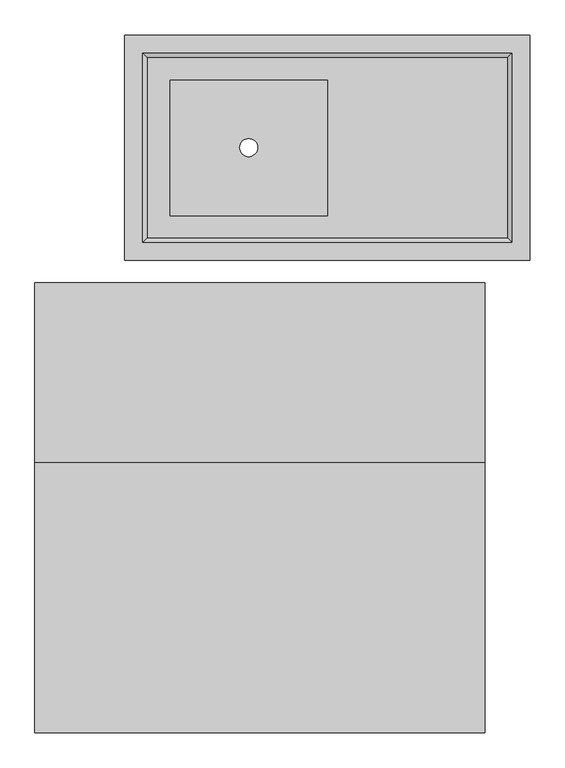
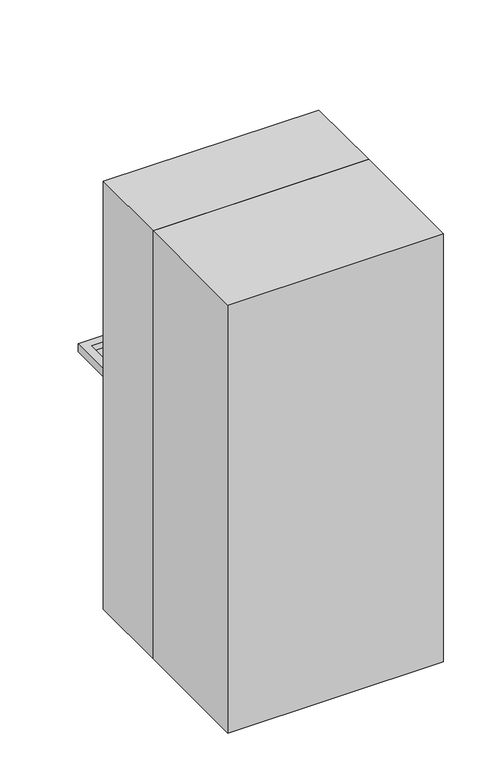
"""IFC4 building model written with IfcOpenShell, lengths in millimetres: flow terminal geometry, BIMHealth-Stainless_Steel_Sink_500x900mm-LOD2A-v1 : BIMHealth-Stainless_Steel_Sink_500x900mm-LOD2A-v1."""

from ifc_helpers import new_model, si_unit, frame, origin, origin_with_axes, place, context, project, spatial, polyline, circle_curve, outline, extrude, source, transform, mapped, element, save
from ifc_brep_helpers import plane_surface, revolved_surface, advanced_brep


def flow_terminal_1070fcb0(model_context):
    return source(origin(), model_context, "Body", "SolidModel", [
        advanced_brep(
        [(900.0, 0.0, 900.0), (0.0, 0.0, 900.0), (0.0, -500.0, 900.0), (900.0, -500.0, 900.0), (40.0, -40.0, 900.0), (860.0, -40.0, 900.0), (860.0, -460.0, 900.0), (40.0, -460.0, 900.0), (900.0, 0.0, 860.0), (900.0, -500.0, 860.0), (0.0, -500.0, 860.0), (0.0, 0.0, 860.0), (455.0, -95.0, 860.0), (95.0, -95.0, 860.0), (95.0, -406.5192247, 860.0), (455.0, -406.5192247, 860.0), (850.0, -50.0, 880.0), (50.0, -50.0, 880.0), (50.0, -450.0, 880.0), (850.0, -450.0, 880.0), (450.0, -100.0, 880.0), (450.0, -401.5192247, 880.0), (100.0, -401.5192247, 880.0), (100.0, -100.0, 880.0), (450.0, -100.0, 855.0), (450.0, -401.5192247, 855.0), (100.0, -401.5192247, 855.0), (100.0, -100.0, 855.0), (455.0, -95.0, 850.0), (95.0, -95.0, 850.0), (95.0, -406.5192247, 850.0), (455.0, -406.5192247, 850.0), (255.0, -250.0, 855.0), (295.0, -250.0, 855.0), (255.0, -250.0, 850.0), (295.0, -250.0, 850.0)],
        [
            (0, 1),
            (1, 2),
            (2, 3),
            (3, 0),
            (4, 5),
            (5, 6),
            (6, 7),
            (7, 4),
            (8, 9),
            (9, 10),
            (10, 11),
            (11, 8),
            (12, 13),
            (13, 14),
            (14, 15),
            (15, 12),
            (0, 8),
            (11, 1),
            (10, 2),
            (9, 3),
            (16, 17),
            (17, 18),
            (18, 19),
            (19, 16),
            (20, 21),
            (21, 22),
            (22, 23),
            (23, 20),
            (16, 5),
            (4, 17),
            (7, 18),
            (6, 19),
            (20, 24),
            (24, 25),
            (25, 21),
            (25, 26),
            (26, 22),
            (26, 27),
            (27, 23),
            (27, 24),
            (28, 29),
            (29, 13),
            (12, 28),
            (29, 30),
            (30, 14),
            (30, 31),
            (31, 15),
            (31, 28),
            (32, 33, circle_curve(frame((275.0, -250.0, 855.0), z_axis=(0.0, 0.0, -1.0), x_axis=(1.0, 0.0, 0.0)), 20.0)),
            (33, 32, circle_curve(frame((275.0, -250.0, 855.0), z_axis=(0.0, 0.0, -1.0), x_axis=(1.0, 0.0, 0.0)), 20.0)),
            (34, 35, circle_curve(frame((275.0, -250.0, 850.0), z_axis=(0.0, 0.0, 1.0), x_axis=(1.0, 0.0, 0.0)), 20.0)),
            (35, 34, circle_curve(frame((275.0, -250.0, 850.0), z_axis=(0.0, 0.0, 1.0), x_axis=(1.0, 0.0, 0.0)), 20.0)),
            (32, 34),
            (35, 33),
        ],
        [
            plane_surface(frame((0.0, 0.0, 900.0), z_axis=(0.0, 0.0, 1.0), x_axis=(-1.0, 0.0, 0.0))),
            plane_surface(frame((0.0, 0.0, 860.0), z_axis=(0.0, 0.0, -1.0), x_axis=(1.0, 0.0, 0.0))),
            plane_surface(frame((900.0, 0.0, 900.0), z_axis=(0.0, 1.0, 0.0), x_axis=(0.0, 0.0, -1.0))),
            plane_surface(frame((0.0, 0.0, 900.0), z_axis=(-1.0, 0.0, 0.0), x_axis=(0.0, 0.0, -1.0))),
            plane_surface(frame((0.0, -500.0, 900.0), z_axis=(0.0, -1.0, 0.0), x_axis=(0.0, 0.0, -1.0))),
            plane_surface(frame((900.0, -500.0, 900.0), z_axis=(1.0, 0.0, 0.0), x_axis=(0.0, 0.0, -1.0))),
            plane_surface(frame((450.0, -250.0, 880.0), z_axis=(0.0, 0.0, 1.0), x_axis=(-1.0, 0.0, 0.0))),
            plane_surface(frame((450.0, -50.0, 880.0), z_axis=(0.0, -0.8944271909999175, 0.4472135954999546), x_axis=(-1.0, 0.0, 0.0))),
            plane_surface(frame((50.0, -250.0, 880.0), z_axis=(0.8944271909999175, 0.0, 0.4472135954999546), x_axis=(0.0, -1.0, 0.0))),
            plane_surface(frame((450.0, -450.0, 880.0), z_axis=(0.0, 0.8944271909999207, 0.4472135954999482), x_axis=(1.0, 0.0, 0.0))),
            plane_surface(frame((850.0, -250.0, 880.0), z_axis=(-0.8944271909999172, 0.0, 0.44721359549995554), x_axis=(0.0, 1.0, 0.0))),
            plane_surface(frame((450.0, -100.0, 900.0), z_axis=(-1.0, 0.0, 0.0), x_axis=(0.0, 0.0, -1.0))),
            plane_surface(frame((450.0, -401.5192247, 900.0), z_axis=(0.0, 1.0, 0.0), x_axis=(0.0, 0.0, -1.0))),
            plane_surface(frame((100.0, -401.5192247, 900.0), z_axis=(1.0, 0.0, 0.0), x_axis=(0.0, 0.0, -1.0))),
            plane_surface(frame((100.0, -100.0, 900.0), z_axis=(0.0, -1.0, 0.0), x_axis=(0.0, 0.0, -1.0))),
            plane_surface(frame((455.0, -95.0, 860.0), z_axis=(0.0, 1.0, 0.0), x_axis=(0.0, 0.0, -1.0))),
            plane_surface(frame((95.0, -95.0, 860.0), z_axis=(-1.0, 0.0, 0.0), x_axis=(0.0, 0.0, -1.0))),
            plane_surface(frame((95.0, -406.5192247, 860.0), z_axis=(0.0, -1.0, 0.0), x_axis=(0.0, 0.0, -1.0))),
            plane_surface(frame((455.0, -406.5192247, 860.0), z_axis=(1.0, 0.0, 0.0), x_axis=(0.0, 0.0, -1.0))),
            plane_surface(frame((95.0, -95.0, 855.0), z_axis=(0.0, 0.0, 1.0), x_axis=(-1.0, 0.0, 0.0))),
            plane_surface(frame((95.0, -95.0, 850.0), z_axis=(0.0, 0.0, -1.0), x_axis=(1.0, 0.0, 0.0))),
            revolved_surface(polyline([(295.0, -250.0, 850.0), (295.0, -250.0, 855.0)]), (275.0, -250.0, 0.0), (0.0, 0.0, -1.0)),
        ],
        [
            (0, [[1, 2, 3, 4], [5, 6, 7, 8]]),
            (1, [[9, 10, 11, 12], [13, 14, 15, 16]]),
            (2, [[-1, 17, -12, 18]]),
            (3, [[-2, -18, -11, 19]]),
            (4, [[-3, -19, -10, 20]]),
            (5, [[-4, -20, -9, -17]]),
            (6, [[21, 22, 23, 24], [25, 26, 27, 28]]),
            (7, [[-21, 29, -5, 30]]),
            (8, [[-22, -30, -8, 31]]),
            (9, [[-23, -31, -7, 32]]),
            (10, [[-24, -32, -6, -29]]),
            (11, [[-25, 33, 34, 35]]),
            (12, [[-26, -35, 36, 37]]),
            (13, [[-27, -37, 38, 39]]),
            (14, [[-28, -39, 40, -33]]),
            (15, [[41, 42, -13, 43]]),
            (16, [[-42, 44, 45, -14]]),
            (17, [[-45, 46, 47, -15]]),
            (18, [[-43, -16, -47, 48]]),
            (19, [[-34, -40, -38, -36], [49, 50]]),
            (20, [[-48, -46, -44, -41], [51, 52]]),
            (21, [[-49, 53, -52, 54]]),
            (21, [[-50, -54, -51, -53]]),
        ],
    ),
        extrude(outline(polyline([(800.0, -950.0), (800.0, -1550.0), (-200.0, -1550.0), (-200.0, -950.0), (800.0, -950.0)])), origin_with_axes(), (0.0, 0.0, 1.0), 2100.0),
        extrude(outline(polyline([(800.0, -550.0), (800.0, -950.0), (-200.0, -950.0), (-200.0, -550.0), (800.0, -550.0)])), origin_with_axes(), (0.0, 0.0, 1.0), 2100.0),
    ])


if __name__ == "__main__":
    model = new_model("IFC4")
    model_context = context("Model", 3, world=origin())
    ifc_project = project(units=[si_unit("LENGTHUNIT", "METRE", prefix="MILLI")], contexts=[model_context])
    site = spatial("IfcSite", under=ifc_project)
    building = spatial("IfcBuilding", under=site)
    placement = place(None, origin())
    flow_terminal_shape = flow_terminal_1070fcb0(model_context)
    element("IfcFlowTerminal", 1, ObjectType="BIMHealth-Stainless_Steel_Sink_500x900mm-LOD2A-v1 : BIMHealth-Stainless_Steel_Sink_500x900mm-LOD2A-v1", at=placement, inside=building, context=model_context, shape_type="MappedRepresentation", body=[
        mapped(flow_terminal_shape, transform((0.0, 0.0, 0.0), x_axis=(1.0, 0.0, 0.0), y_axis=(0.0, 1.0, 0.0), z_axis=(0.0, 0.0, 1.0))),
    ])
    save(model, "model.ifc")
